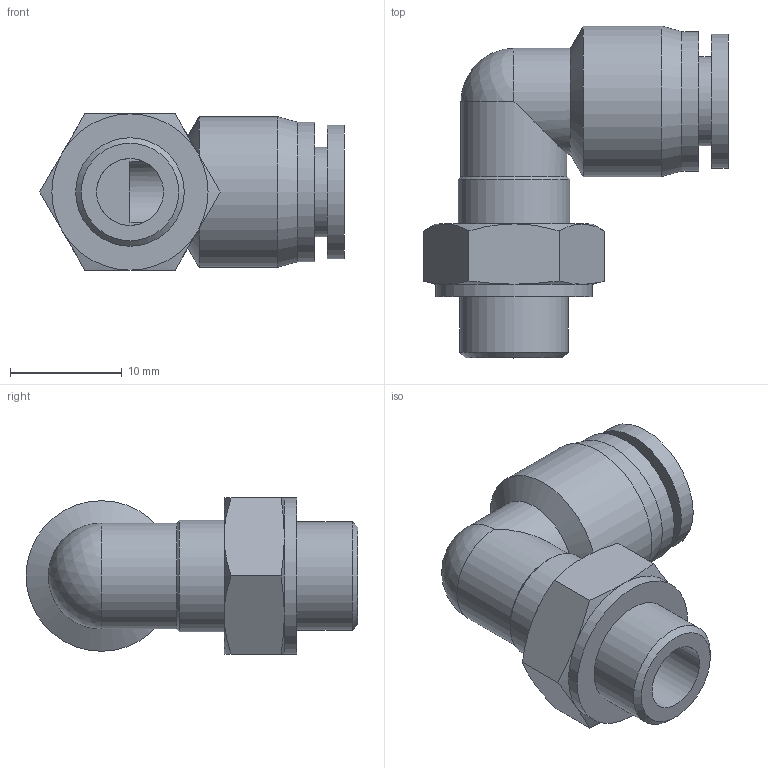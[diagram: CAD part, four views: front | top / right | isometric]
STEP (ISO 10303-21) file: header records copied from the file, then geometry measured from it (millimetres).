
FILE_DESCRIPTION((''),'2;1');
FILE_NAME('S:\UTecnico\ArchivioUT\Speciali Clienti\Speciali KONFIT\RP\06\RP 72\RP721806.stp','2012-03-23T08:36:02',('UT5'),(''),'Autodesk Inventor 2012','Autodesk Inventor 2012','');
FILE_SCHEMA(('AUTOMOTIVE_DESIGN { 1 0 10303 214 1 1 1 1 }'));
Length unit declared in the file: millimetre
Products named in the file (1): RP721806
Bounding box: 27.28 x 29.75 x 14 mm (x, y, z)
Volume: 3230.3 mm3; surface area: 2774.4 mm2
Topology: 1 solids, 1 shells, 43 faces, 92 edges, 55 vertices
Faces by surface type: cone 16, plane 14, cylinder 12, sphere 1
Full cylindrical faces by diameter (mm): 6 x2, 8 x1, 9.5 x2, 9.728 x1, 10 x1, 12 x1, 12.5 x1, 13.5 x1, 14 x1
Entity records: 1039 total; most frequent: CARTESIAN_POINT 212, DIRECTION 171, ORIENTED_EDGE 142, AXIS2_PLACEMENT_3D 81, EDGE_CURVE 71, EDGE_LOOP 63, VERTEX_POINT 50, FACE_OUTER_BOUND 42
